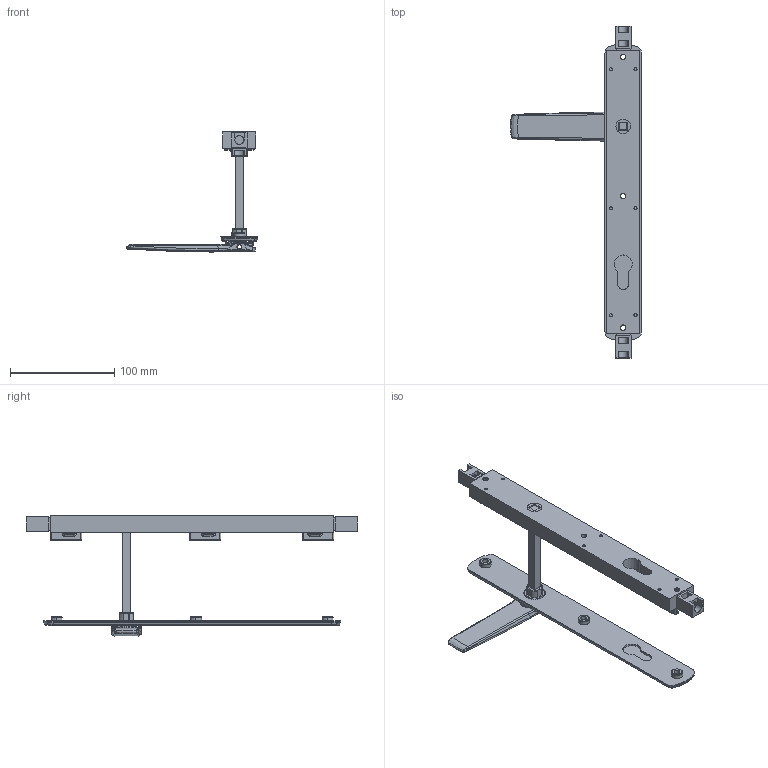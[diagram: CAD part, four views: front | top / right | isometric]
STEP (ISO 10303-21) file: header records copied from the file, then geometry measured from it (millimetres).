
FILE_DESCRIPTION (( 'STEP AP214' ), '1' );
FILE_NAME ('TPL-H-EU-602-B 30Oct2024.STEP', '2024-10-30T03:28:37', ( '' ), ( '' ), 'SwSTEP 2.0', 'SolidWorks 2023', '' );
FILE_SCHEMA (( 'AUTOMOTIVE_DESIGN' ));
Length unit declared in the file: millimetre
Products named in the file (11): Copy of TPLGen2 lock body keyed assembly^TPL-H-EU-102 30Oct2024_Bolts retracted - left; Copy of LKC-505 Swing handle zinc - simplified^Copy of TPGen2 handle non-keyed long zinc - simplified_TPL-H-EU-102 30Oct2024; Copy of LKC-584 Pivot body zinc - simplified^Copy of TPGen2 handle non-keyed long zinc - simplified_TPL-H-EU-102 30Oct2024; Copy of LKC-585 Rotator body zinc^Copy of TPGen2 handle non-keyed long zinc - simplified_TPL-H-EU-102 30Oct2024; Copy of LKC-583 Escutcheon plate unkeyed 285mm long zinc - simplified^Copy of TPGen2 handle non-keyed long zinc - simplified_TPL-H-EU-102 30Oct2024; Copy of TPLGen2 push rod - simplified^Copy of TPLGen2 lock body keyed assembly_TPL-H-EU-102 30Oct2024_Female thread M10; Copy of TPGen2 handle non-keyed long zinc - simplified^TPL-H-EU-102 30Oct2024_Right; Copy of TPL-H-APC-515 04Oct2024^TPL-H-EU-102 30Oct2024; Copy of LKC-586 Spindle square 8mm with M4 hole^Copy of TPGen2 handle non-keyed long zinc - simplified_TPL-H-EU-102 30Oct2024_100mm; Copy of TPLGen2 lock body keyed^Copy of TPLGen2 lock body keyed assembly_TPL-H-EU-102 30Oct2024_Left; TPL-H-EU-602-B 30Oct2024
Assembly tree (13 placements, depth 3):
  TPL-H-EU-602-B 30Oct2024
    Copy of TPLGen2 lock body keyed assembly^TPL-H-EU-102 30Oct2024_Bolts retracted - left
      Copy of TPLGen2 lock body keyed^Copy of TPLGen2 lock body keyed assembly_TPL-H-EU-102 30Oct2024_Left
      Copy of TPLGen2 push rod - simplified^Copy of TPLGen2 lock body keyed assembly_TPL-H-EU-102 30Oct2024_Female thread M10  x2
    Copy of TPGen2 handle non-keyed long zinc - simplified^TPL-H-EU-102 30Oct2024_Right
      Copy of LKC-583 Escutcheon plate unkeyed 285mm long zinc - simplified^Copy of TPGen2 handle non-keyed long zinc - simplified_TPL-H-EU-102 30Oct2024
      Copy of LKC-505 Swing handle zinc - simplified^Copy of TPGen2 handle non-keyed long zinc - simplified_TPL-H-EU-102 30Oct2024
      Copy of LKC-585 Rotator body zinc^Copy of TPGen2 handle non-keyed long zinc - simplified_TPL-H-EU-102 30Oct2024
      Copy of LKC-586 Spindle square 8mm with M4 hole^Copy of TPGen2 handle non-keyed long zinc - simplified_TPL-H-EU-102 30Oct2024_100mm
      Copy of LKC-584 Pivot body zinc - simplified^Copy of TPGen2 handle non-keyed long zinc - simplified_TPL-H-EU-102 30Oct2024
    Copy of TPL-H-APC-515 04Oct2024^TPL-H-EU-102 30Oct2024  x3
Bounding box: 125.62 x 318.6 x 115.21 mm (x, y, z)
Volume: 204367.4 mm3; surface area: 84360.9 mm2
Topology: 11 solids, 11 shells, 1088 faces, 2624 edges, 1584 vertices
Faces by surface type: cylinder 328, plane 326, bspline 224, torus 115, cone 66, sphere 29
Entity records: 28564 total; most frequent: CARTESIAN_POINT 12160, ORIENTED_EDGE 3540, DIRECTION 3148, EDGE_CURVE 1770, AXIS2_PLACEMENT_3D 1246, VERTEX_POINT 1068, EDGE_LOOP 832, FACE_OUTER_BOUND 751
